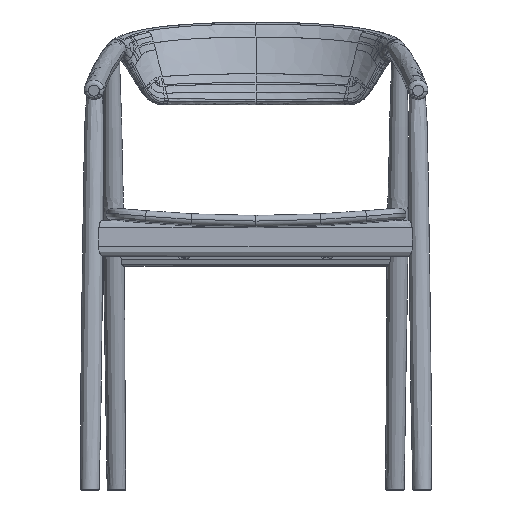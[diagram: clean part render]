
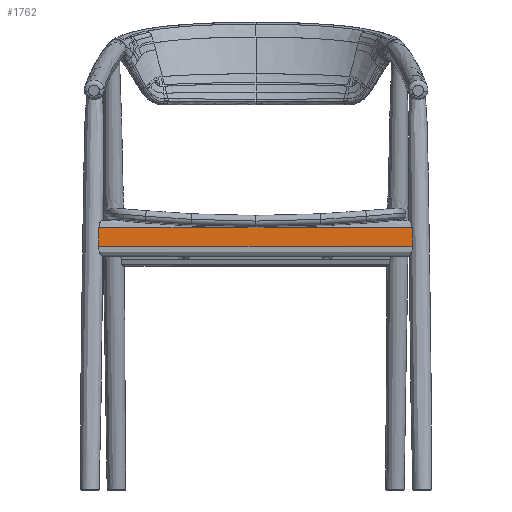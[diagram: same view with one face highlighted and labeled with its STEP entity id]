
A CAD part, front view. The second image highlights one B-rep face of the part: STEP entity #1762.
In plain terms, the highlighted free-form (B-spline) face has degree [1, 1] with [2, 2] control points.
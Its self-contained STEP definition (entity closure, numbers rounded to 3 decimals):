
#346=(
BOUNDED_SURFACE()
B_SPLINE_SURFACE(1,1,((#138139,#138140),(#138141,#138142)),
 .UNSPECIFIED.,.F.,.F.,.F.)
B_SPLINE_SURFACE_WITH_KNOTS((2,2),(2,2),(-100.987,-70.987),
(0.,527.),.UNSPECIFIED.)
GEOMETRIC_REPRESENTATION_ITEM()
RATIONAL_B_SPLINE_SURFACE(((1.,1.),(1.,1.)))
REPRESENTATION_ITEM('')
SURFACE()
);
#1762=ADVANCED_FACE('',(#2116),#346,.T.);
#2116=FACE_OUTER_BOUND('',#2471,.T.);
#2471=EDGE_LOOP('',(#4123,#4124,#4125,#4126));
#4123=ORIENTED_EDGE('',*,*,#10831,.T.);
#4124=ORIENTED_EDGE('',*,*,#10832,.T.);
#4125=ORIENTED_EDGE('',*,*,#10833,.T.);
#4126=ORIENTED_EDGE('',*,*,#10834,.T.);
#5806=PCURVE('',#346,#7489);
#5807=PCURVE('',#346,#7490);
#5808=PCURVE('',#346,#7491);
#5809=PCURVE('',#346,#7492);
#7489=DEFINITIONAL_REPRESENTATION('',(#13918),#141318);
#7490=DEFINITIONAL_REPRESENTATION('',(#13920),#141318);
#7491=DEFINITIONAL_REPRESENTATION('',(#13922),#141318);
#7492=DEFINITIONAL_REPRESENTATION('',(#13924),#141318);
#9160=SURFACE_CURVE('',#13917,(#5806),.PCURVE_S1.);
#9161=SURFACE_CURVE('',#13919,(#5807),.PCURVE_S1.);
#9162=SURFACE_CURVE('',#13921,(#5808),.PCURVE_S1.);
#9163=SURFACE_CURVE('',#13923,(#5809),.PCURVE_S1.);
#10831=EDGE_CURVE('',#15599,#15597,#9160,.T.);
#10832=EDGE_CURVE('',#15597,#15596,#9161,.T.);
#10833=EDGE_CURVE('',#15596,#15598,#9162,.T.);
#10834=EDGE_CURVE('',#15598,#15599,#9163,.T.);
#13917=B_SPLINE_CURVE_WITH_KNOTS('',1,(#138147,#138148),.UNSPECIFIED.,.F.,
 .F.,(2,2),(-517.744,-10.811),.UNSPECIFIED.);
#13918=B_SPLINE_CURVE_WITH_KNOTS('',1,(#138149,#138150),.UNSPECIFIED.,.F.,
 .F.,(2,2),(-517.744,-10.811),.UNSPECIFIED.);
#13919=B_SPLINE_CURVE_WITH_KNOTS('',3,(#138151,#138152,#138153,#138154),
 .UNSPECIFIED.,.F.,.F.,(4,4),(0.,30.001),.UNSPECIFIED.);
#13920=B_SPLINE_CURVE_WITH_KNOTS('',3,(#138155,#138156,#138157,#138158),
 .UNSPECIFIED.,.F.,.F.,(4,4),(0.,30.001),.UNSPECIFIED.);
#13921=B_SPLINE_CURVE_WITH_KNOTS('',1,(#138159,#138160),.UNSPECIFIED.,.F.,
 .F.,(2,2),(10.628,517.919),.UNSPECIFIED.);
#13922=B_SPLINE_CURVE_WITH_KNOTS('',1,(#138161,#138162),.UNSPECIFIED.,.F.,
 .F.,(2,2),(10.628,517.919),.UNSPECIFIED.);
#13923=B_SPLINE_CURVE_WITH_KNOTS('',3,(#138163,#138164,#138165,#138166),
 .UNSPECIFIED.,.F.,.F.,(4,4),(-30.001,0.),.UNSPECIFIED.);
#13924=B_SPLINE_CURVE_WITH_KNOTS('',3,(#138167,#138168,#138169,#138170),
 .UNSPECIFIED.,.F.,.F.,(4,4),(-30.001,0.),.UNSPECIFIED.);
#15596=VERTEX_POINT('',#138143);
#15597=VERTEX_POINT('',#138144);
#15598=VERTEX_POINT('',#138145);
#15599=VERTEX_POINT('',#138146);
#138139=CARTESIAN_POINT('',(263.472,-224.891,424.824));
#138140=CARTESIAN_POINT('',(-263.528,-225.262,424.841));
#138141=CARTESIAN_POINT('',(263.472,-226.464,394.865));
#138142=CARTESIAN_POINT('',(-263.528,-226.835,394.882));
#138143=CARTESIAN_POINT('',(252.844,-226.471,394.865));
#138144=CARTESIAN_POINT('',(252.661,-224.899,424.824));
#138145=CARTESIAN_POINT('',(-254.447,-226.828,394.882));
#138146=CARTESIAN_POINT('',(-254.272,-225.256,424.84));
#138147=CARTESIAN_POINT('',(-254.272,-225.256,424.84));
#138148=CARTESIAN_POINT('',(252.661,-224.899,424.824));
#138149=CARTESIAN_POINT('',(-100.987,517.744));
#138150=CARTESIAN_POINT('',(-100.987,10.811));
#138151=CARTESIAN_POINT('',(252.661,-224.899,424.824));
#138152=CARTESIAN_POINT('',(252.727,-225.423,414.838));
#138153=CARTESIAN_POINT('',(252.785,-225.947,404.851));
#138154=CARTESIAN_POINT('',(252.844,-226.471,394.865));
#138155=CARTESIAN_POINT('',(-100.987,10.811));
#138156=CARTESIAN_POINT('',(-90.987,10.745));
#138157=CARTESIAN_POINT('',(-80.987,10.687));
#138158=CARTESIAN_POINT('',(-70.987,10.628));
#138159=CARTESIAN_POINT('',(252.844,-226.471,394.865));
#138160=CARTESIAN_POINT('',(-254.447,-226.828,394.882));
#138161=CARTESIAN_POINT('',(-70.987,10.628));
#138162=CARTESIAN_POINT('',(-70.987,517.919));
#138163=CARTESIAN_POINT('',(-254.447,-226.828,394.882));
#138164=CARTESIAN_POINT('',(-254.391,-226.304,404.868));
#138165=CARTESIAN_POINT('',(-254.336,-225.78,414.854));
#138166=CARTESIAN_POINT('',(-254.272,-225.256,424.84));
#138167=CARTESIAN_POINT('',(-70.987,517.919));
#138168=CARTESIAN_POINT('',(-80.987,517.863));
#138169=CARTESIAN_POINT('',(-90.987,517.808));
#138170=CARTESIAN_POINT('',(-100.987,517.744));
#141318=(
GEOMETRIC_REPRESENTATION_CONTEXT(2)
PARAMETRIC_REPRESENTATION_CONTEXT()
REPRESENTATION_CONTEXT('pspace','')
);
